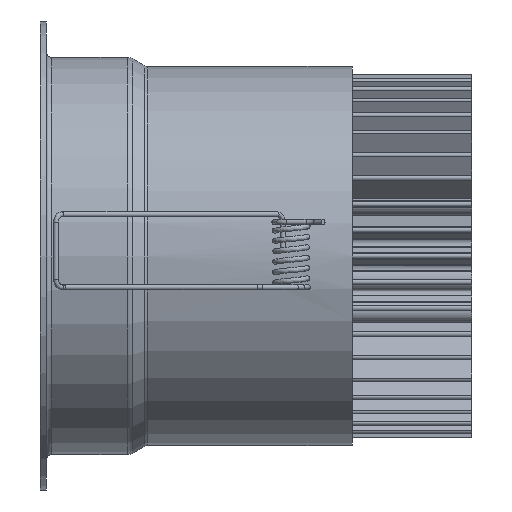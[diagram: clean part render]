
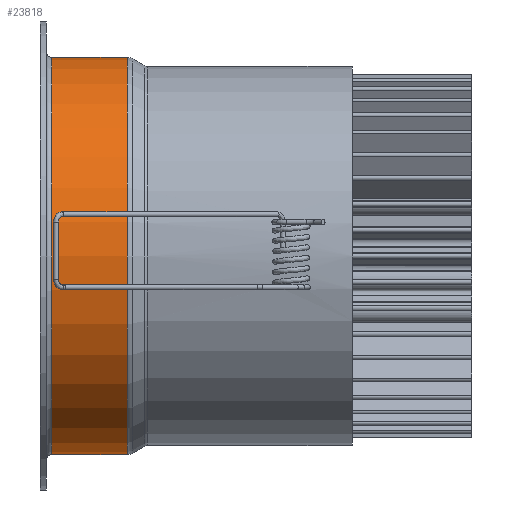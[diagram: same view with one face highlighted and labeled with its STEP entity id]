
A CAD part, left-side view. The second image highlights one B-rep face of the part: STEP entity #23818.
In plain terms, the highlighted cylindrical face has radius 38.2 mm (diameter 76.4 mm), a full revolution.
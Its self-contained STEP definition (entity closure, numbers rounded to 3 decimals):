
#434=CYLINDRICAL_SURFACE('',#25401,38.2);
#1576=FACE_OUTER_BOUND('',#3053,.T.);
#3053=EDGE_LOOP('',(#18841,#18842,#18843,#18844,#18845,#18846));
#3733=CIRCLE('',#25399,38.2);
#3734=CIRCLE('',#25400,38.2);
#3735=CIRCLE('',#25402,38.2);
#3736=CIRCLE('',#25403,38.2);
#5835=LINE('',#48000,#8421);
#8421=VECTOR('',#30103,38.2);
#10523=VERTEX_POINT('',#47990);
#10524=VERTEX_POINT('',#47992);
#10525=VERTEX_POINT('',#47996);
#10526=VERTEX_POINT('',#47997);
#13472=EDGE_CURVE('',#10524,#10523,#3733,.T.);
#13473=EDGE_CURVE('',#10523,#10524,#3734,.T.);
#13474=EDGE_CURVE('',#10525,#10526,#3735,.T.);
#13475=EDGE_CURVE('',#10526,#10525,#3736,.T.);
#13476=EDGE_CURVE('',#10526,#10524,#5835,.T.);
#18841=ORIENTED_EDGE('',*,*,#13474,.F.);
#18842=ORIENTED_EDGE('',*,*,#13475,.F.);
#18843=ORIENTED_EDGE('',*,*,#13476,.T.);
#18844=ORIENTED_EDGE('',*,*,#13472,.T.);
#18845=ORIENTED_EDGE('',*,*,#13473,.T.);
#18846=ORIENTED_EDGE('',*,*,#13476,.F.);
#23818=ADVANCED_FACE('',(#1576),#434,.T.);
#25399=AXIS2_PLACEMENT_3D('',#47993,#30093,#30094);
#25400=AXIS2_PLACEMENT_3D('',#47994,#30095,#30096);
#25401=AXIS2_PLACEMENT_3D('',#47995,#30097,#30098);
#25402=AXIS2_PLACEMENT_3D('',#47998,#30099,#30100);
#25403=AXIS2_PLACEMENT_3D('',#47999,#30101,#30102);
#30093=DIRECTION('center_axis',(0.,-1.,0.));
#30094=DIRECTION('ref_axis',(1.,0.,0.));
#30095=DIRECTION('center_axis',(0.,-1.,0.));
#30096=DIRECTION('ref_axis',(1.,0.,0.));
#30097=DIRECTION('center_axis',(0.,-1.,0.));
#30098=DIRECTION('ref_axis',(-1.,0.,0.));
#30099=DIRECTION('center_axis',(0.,-1.,0.));
#30100=DIRECTION('ref_axis',(1.,0.,0.));
#30101=DIRECTION('center_axis',(0.,-1.,0.));
#30102=DIRECTION('ref_axis',(1.,0.,0.));
#30103=DIRECTION('',(0.,1.,0.));
#47990=CARTESIAN_POINT('',(0.,-2.2,38.2));
#47992=CARTESIAN_POINT('',(38.2,-2.2,0.));
#47993=CARTESIAN_POINT('Origin',(0.,-2.2,0.));
#47994=CARTESIAN_POINT('Origin',(0.,-2.2,0.));
#47995=CARTESIAN_POINT('Origin',(0.,-9.465,0.));
#47996=CARTESIAN_POINT('',(0.,-16.73,38.2));
#47997=CARTESIAN_POINT('',(38.2,-16.73,0.));
#47998=CARTESIAN_POINT('Origin',(0.,-16.73,0.));
#47999=CARTESIAN_POINT('Origin',(0.,-16.73,0.));
#48000=CARTESIAN_POINT('',(38.2,-9.465,0.));
